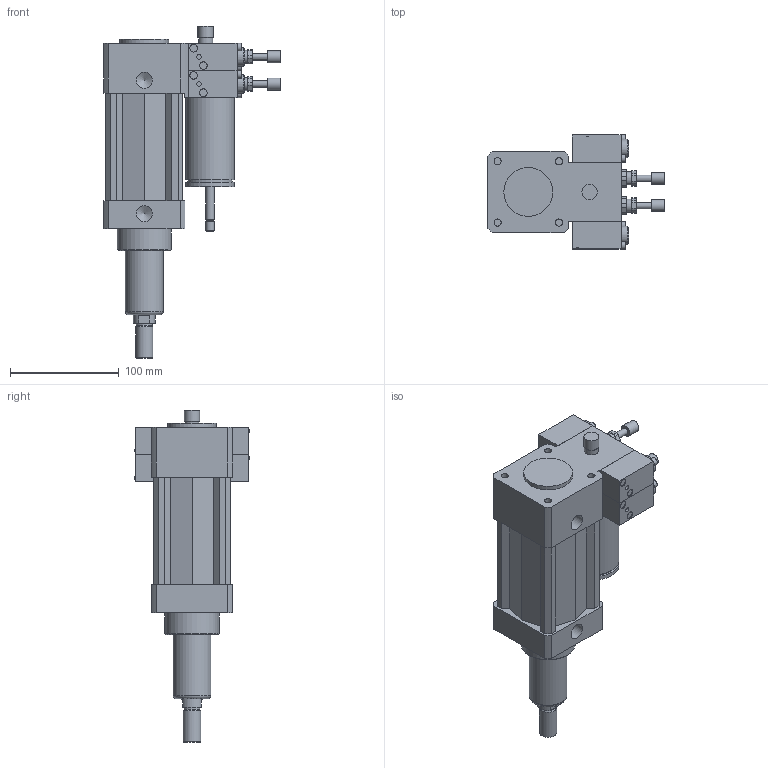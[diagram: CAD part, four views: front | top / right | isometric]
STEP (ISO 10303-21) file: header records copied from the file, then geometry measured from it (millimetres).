
FILE_DESCRIPTION((''),'2;1');
FILE_NAME('I:\Area Tecnica\Disegni\VARIE-3D\Componenti\COP\14##.####.#.#.#\14630050D.C.C.stp','2008-04-23T17:42:55',('airolcr1'),(''),'Autodesk Inventor 2008','Autodesk Inventor 2008','');
FILE_SCHEMA(('AUTOMOTIVE_DESIGN { 1 0 10303 214 1 1 1 1 }'));
Length unit declared in the file: millimetre
Products named in the file (9): 14630050D.C.C; STELO Ø63 C 50; VAL SK NC IN; VAL SK NC OUT; VAL ST NC IN; VAL ST NC OUT; REGOLATORE DR IN; REGOLATORE DR OUT
Assembly tree (8 placements, depth 2):
  14630050D.C.C
    14630050D.C.C
    STELO Ø63 C 50
    VAL SK NC IN
    VAL SK NC OUT
    VAL ST NC IN
    VAL ST NC OUT
    REGOLATORE DR IN
    REGOLATORE DR OUT
Bounding box: 163 x 105.61 x 306 mm (x, y, z)
Volume: 1330802.9 mm3; surface area: 140200.1 mm2
Topology: 8 solids, 8 shells, 308 faces, 646 edges, 417 vertices
Faces by surface type: plane 171, cylinder 91, bspline 34, cone 11, torus 1
Full cylindrical faces by diameter (mm): 2 x2, 4 x16, 6 x2, 7 x16, 8 x2, 11 x2, 12 x2, 13 x1, 14 x1, 14.5 x1, 16 x1, 17 x4, 20 x1, 34.7 x1, 35 x2, 41 x1, 45 x3, 50 x1
Entity records: 8314 total; most frequent: CARTESIAN_POINT 1653, DIRECTION 1362, ORIENTED_EDGE 1084, EDGE_CURVE 542, AXIS2_PLACEMENT_3D 529, EDGE_LOOP 462, VERTEX_POINT 404, FACE_OUTER_BOUND 308
